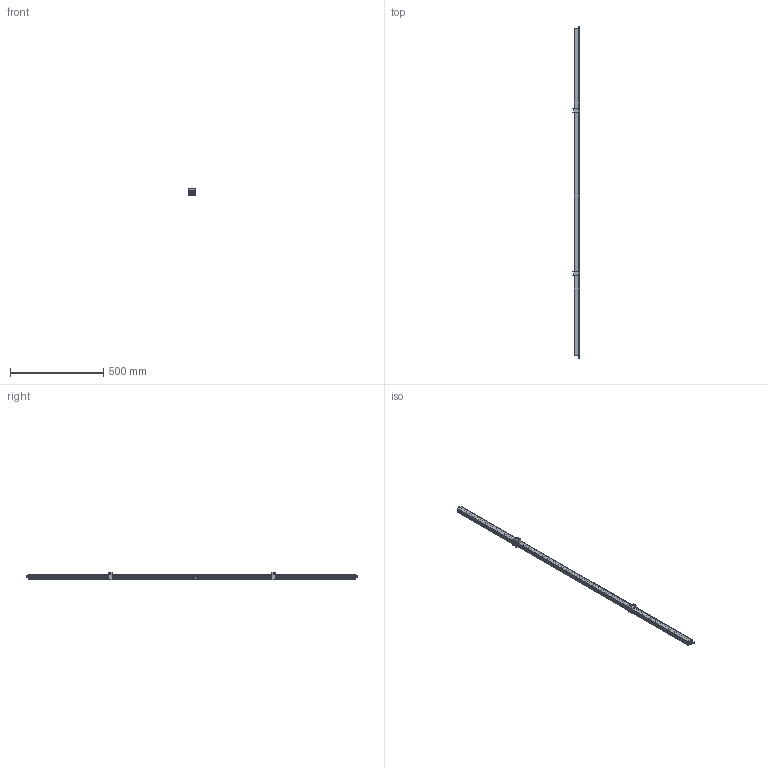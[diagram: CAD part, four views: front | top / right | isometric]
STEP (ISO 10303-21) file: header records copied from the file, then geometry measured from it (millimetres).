
FILE_DESCRIPTION((''),'2;1');
FILE_NAME('SB109611_3D-SOFTWARE_COLOUR','2013-09-12T',('SESA217760'),('Schneider-Electric'),'PRO/ENGINEER BY PARAMETRIC TECHNOLOGY CORPORATION, 2011410','PRO/ENGINEER BY PARAMETRIC TECHNOLOGY CORPORATION, 2011410','');
FILE_SCHEMA(('CONFIG_CONTROL_DESIGN'));
Length unit declared in the file: millimetre
Products named in the file (1): SB109611_3D-SOFTWARE_COLOUR
Bounding box: 36 x 1783 x 38 mm (x, y, z)
Volume: 371854.8 mm3; surface area: 760132.8 mm2
Topology: 1 solids, 1 shells, 800 faces, 2349 edges, 1535 vertices
Faces by surface type: plane 786, cylinder 14
Entity records: 26067 total; most frequent: CARTESIAN_POINT 4766, ORIENTED_EDGE 4698, DIRECTION 3968, EDGE_CURVE 2349, VECTOR 2312, LINE 2312, VERTEX_POINT 1535, AXIS2_PLACEMENT_3D 828
